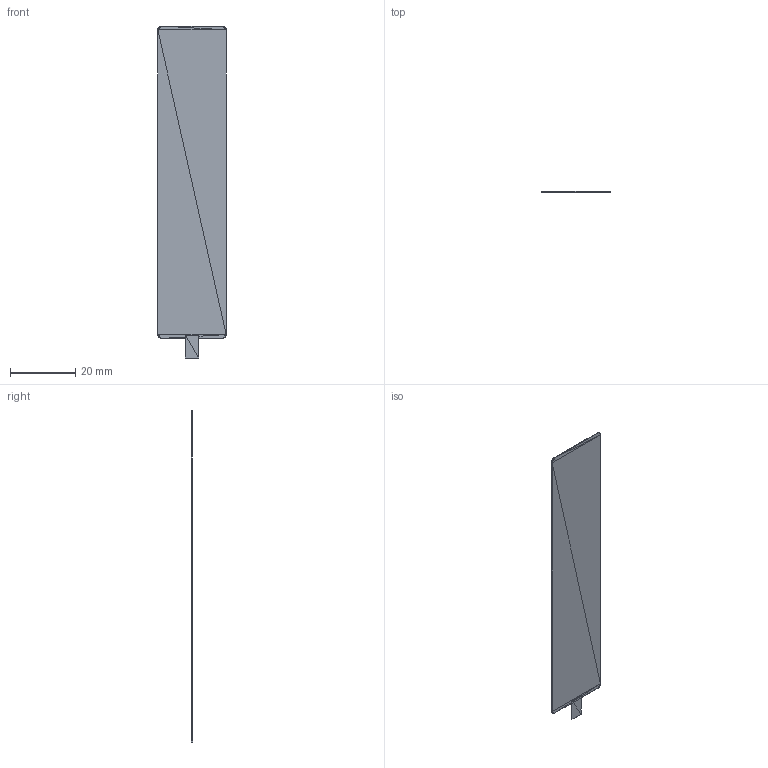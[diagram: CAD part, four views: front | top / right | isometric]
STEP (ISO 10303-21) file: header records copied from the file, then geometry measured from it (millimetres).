
FILE_DESCRIPTION(('Open CASCADE Model'),'2;1');
FILE_NAME('REF_lte_fxub63_flex_and_feed','2026-09-08T13:43:23',('Author' ),('Open CASCADE'),'Open CASCADE STEP processor 7.8','build123d', 'Unknown');
FILE_SCHEMA(('AUTOMOTIVE_DESIGN { 1 0 10303 214 1 1 1 1 }'));
Length unit declared in the file: millimetre
Products named in the file (4): =>[0:1:1:2]; REF_lte_fxub63_flex_and_feed; SOLID
Assembly tree (3 placements, depth 3):
  =>[0:1:1:2]
    REF_lte_fxub63_flex_and_feed
      SOLID
      SOLID
Bounding box: 21 x 0.35 x 102 mm (x, y, z)
Volume: 412.8 mm3; surface area: 4139.6 mm2
Topology: 2 solids, 2 shells, 360 faces, 540 edges, 184 vertices
Faces by surface type: plane 360
Entity records: 14122 total; most frequent: DIRECTION 2348, CARTESIAN_POINT 2168, LINE 1620, VECTOR 1620, ORIENTED_EDGE 1080, PCURVE 1080, DEFINITIONAL_REPRESENTATION 1080, EDGE_CURVE 540
